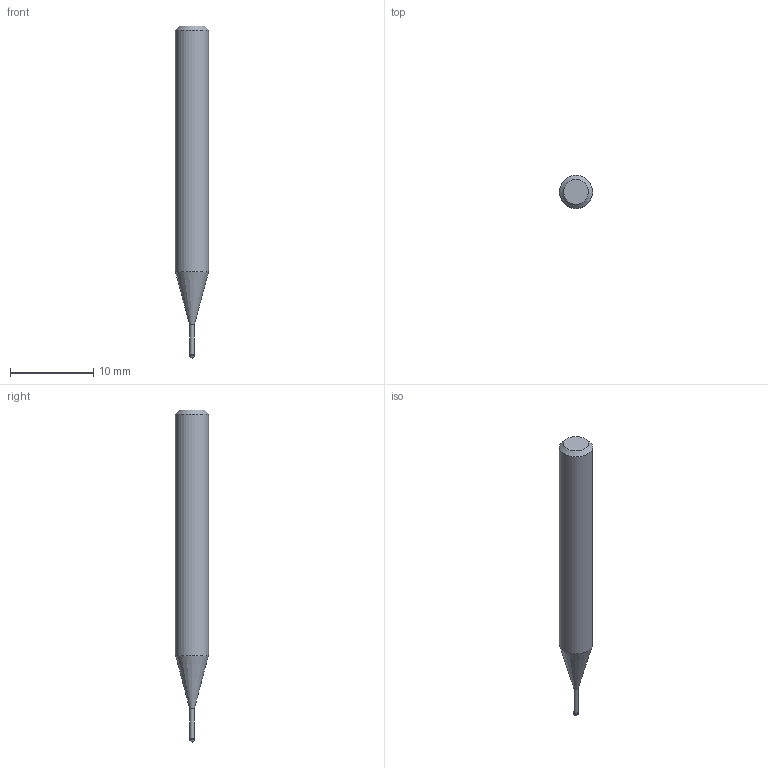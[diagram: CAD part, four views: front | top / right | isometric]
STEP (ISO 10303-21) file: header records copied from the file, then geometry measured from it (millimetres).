
FILE_DESCRIPTION((''),'2;1');
FILE_NAME('C:\Users\nsx150\AppData\Local\Temp\Mastercam 2021\QT8KEW0Y7J\TEMP.step','2021-04-23T11:20:55',(''),(''),'STEP Write','Mastercam 2021 ... CNC Software, Inc.','');
FILE_SCHEMA(('AUTOMOTIVE_DESIGN'));
Length unit declared in the file: millimetre
Products named in the file (1): None
Bounding box: 4 x 4 x 40 mm (x, y, z)
Volume: 402.4 mm3; surface area: 435.5 mm2
Topology: 2 solids, 2 shells, 9 faces, 14 edges, 8 vertices
Faces by surface type: plane 3, cylinder 3, cone 2, sphere 1
Full cylindrical faces by diameter (mm): 0.56 x1, 0.6 x1, 4 x1
Entity records: 211 total; most frequent: DIRECTION 36, CARTESIAN_POINT 25, AXIS2_PLACEMENT_3D 18, ORIENTED_EDGE 14, EDGE_LOOP 14, STYLED_ITEM 12, ADVANCED_FACE 9, FACE_BOUND 8
